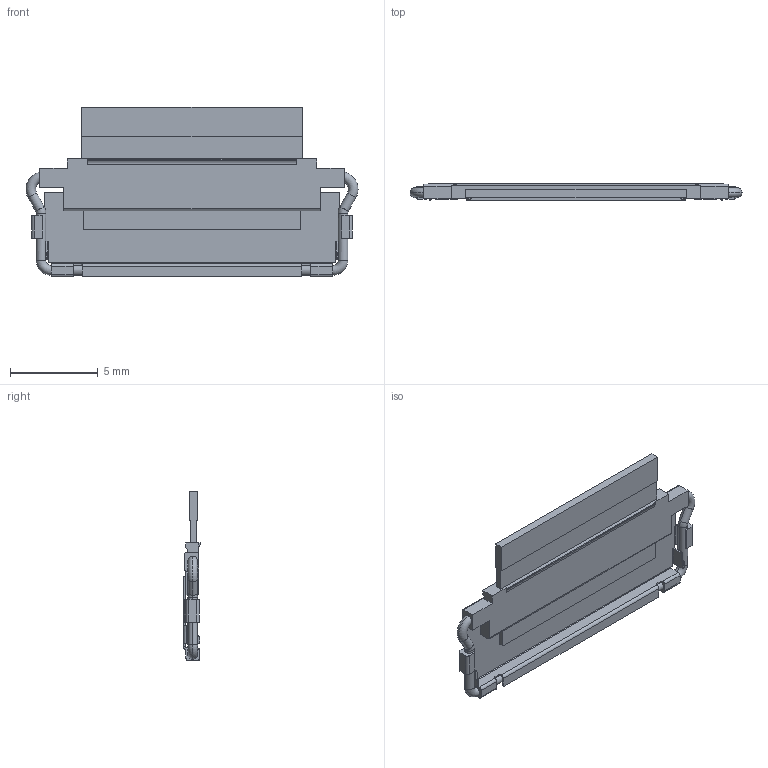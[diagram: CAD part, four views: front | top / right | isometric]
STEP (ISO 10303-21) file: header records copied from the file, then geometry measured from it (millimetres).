
FILE_DESCRIPTION (( 'STEP AP203' ), '1' );
FILE_NAME ('20856-030T-01 FPC ASS''Y STEP R3 ALL.STEP', '2022-11-04T01:16:08', ( '' ), ( '' ), 'SwSTEP 2.0', 'SolidWorks 2020', '' );
FILE_SCHEMA (( 'CONFIG_CONTROL_DESIGN' ));
Length unit declared in the file: millimetre
Products named in the file (1): 20856-030T-01 FPC ASS''Y STEP R3 ALL
Bounding box: 18.95 x 0.95 x 9.7 mm (x, y, z)
Volume: 72.4 mm3; surface area: 437.1 mm2
Topology: 1 solids, 1 shells, 445 faces, 1311 edges, 861 vertices
Faces by surface type: plane 364, cylinder 69, torus 12
Entity records: 14764 total; most frequent: CARTESIAN_POINT 2672, ORIENTED_EDGE 2622, DIRECTION 2373, EDGE_CURVE 1311, LINE 1121, VECTOR 1121, VERTEX_POINT 861, AXIS2_PLACEMENT_3D 626
